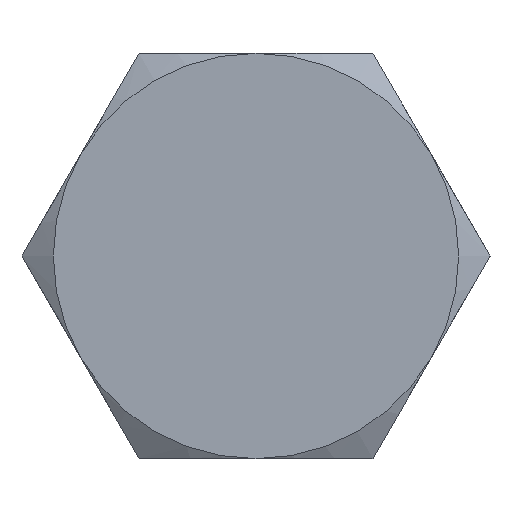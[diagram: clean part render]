
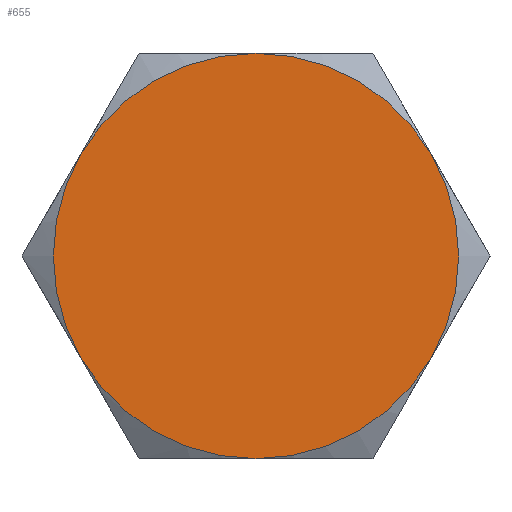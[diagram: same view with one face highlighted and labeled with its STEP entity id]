
A CAD part, left-side view. The second image highlights one B-rep face of the part: STEP entity #655.
In plain terms, the highlighted planar face has unit normal (-1, 0, 0).
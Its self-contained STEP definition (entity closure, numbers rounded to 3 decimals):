
#108 = EDGE_LOOP ( 'NONE', ( #342, #1042, #2030, #2226, #836, #2096 ) ) ;
#115 = DIRECTION ( 'NONE',  ( 0., 0., -1. ) ) ;
#236 = VERTEX_POINT ( 'NONE', #1301 ) ;
#279 = CARTESIAN_POINT ( 'NONE',  ( 0., 0., 8. ) ) ;
#342 = ORIENTED_EDGE ( 'NONE', *, *, #1904, .F. ) ;
#599 = DIRECTION ( 'NONE',  ( 1., 0., 0. ) ) ;
#629 = VERTEX_POINT ( 'NONE', #636 ) ;
#632 = CIRCLE ( 'NONE', #2373, 8. ) ;
#636 = CARTESIAN_POINT ( 'NONE',  ( 0., 6.928, -4. ) ) ;
#639 = CARTESIAN_POINT ( 'NONE',  ( 0., 0., 0. ) ) ;
#655 = ADVANCED_FACE ( 'NONE', ( #656 ), #861, .F. ) ;
#656 = FACE_OUTER_BOUND ( 'NONE', #108, .T. ) ;
#662 = VERTEX_POINT ( 'NONE', #1693 ) ;
#677 = CARTESIAN_POINT ( 'NONE',  ( 0., 0., 0. ) ) ;
#716 = CARTESIAN_POINT ( 'NONE',  ( 0., 0., 0. ) ) ;
#784 = AXIS2_PLACEMENT_3D ( 'NONE', #677, #2162, #892 ) ;
#797 = DIRECTION ( 'NONE',  ( 0., 0., -1. ) ) ;
#836 = ORIENTED_EDGE ( 'NONE', *, *, #1488, .T. ) ;
#842 = CARTESIAN_POINT ( 'NONE',  ( 0., 9.238, 0. ) ) ;
#859 = DIRECTION ( 'NONE',  ( 0., 0., -1. ) ) ;
#861 = PLANE ( 'NONE',  #935 ) ;
#892 = DIRECTION ( 'NONE',  ( 0., 0., -1. ) ) ;
#916 = CIRCLE ( 'NONE', #2617, 8. ) ;
#923 = DIRECTION ( 'NONE',  ( 0., 0., 1. ) ) ;
#935 = AXIS2_PLACEMENT_3D ( 'NONE', #842, #981, #991 ) ;
#966 = EDGE_CURVE ( 'NONE', #2557, #662, #2562, .T. ) ;
#981 = DIRECTION ( 'NONE',  ( 1., 0., 0. ) ) ;
#988 = CIRCLE ( 'NONE', #1913, 8. ) ;
#991 = DIRECTION ( 'NONE',  ( 0., 0., -1. ) ) ;
#1042 = ORIENTED_EDGE ( 'NONE', *, *, #966, .F. ) ;
#1173 = CIRCLE ( 'NONE', #784, 8. ) ;
#1213 = CARTESIAN_POINT ( 'NONE',  ( 0., 0., 0. ) ) ;
#1265 = EDGE_CURVE ( 'NONE', #1953, #2557, #1448, .T. ) ;
#1301 = CARTESIAN_POINT ( 'NONE',  ( 0., 6.928, 4. ) ) ;
#1342 = EDGE_CURVE ( 'NONE', #2080, #1953, #1173, .T. ) ;
#1355 = DIRECTION ( 'NONE',  ( 1., 0., 0. ) ) ;
#1432 = DIRECTION ( 'NONE',  ( 0., 0., -1. ) ) ;
#1440 = EDGE_CURVE ( 'NONE', #629, #236, #988, .T. ) ;
#1442 = CARTESIAN_POINT ( 'NONE',  ( 0., -6.928, 4. ) ) ;
#1448 = CIRCLE ( 'NONE', #2102, 8. ) ;
#1488 = EDGE_CURVE ( 'NONE', #2080, #236, #916, .T. ) ;
#1693 = CARTESIAN_POINT ( 'NONE',  ( 0., 0., -8. ) ) ;
#1731 = AXIS2_PLACEMENT_3D ( 'NONE', #2476, #599, #797 ) ;
#1904 = EDGE_CURVE ( 'NONE', #662, #629, #632, .T. ) ;
#1913 = AXIS2_PLACEMENT_3D ( 'NONE', #2622, #1355, #115 ) ;
#1953 = VERTEX_POINT ( 'NONE', #1442 ) ;
#2030 = ORIENTED_EDGE ( 'NONE', *, *, #1265, .F. ) ;
#2080 = VERTEX_POINT ( 'NONE', #279 ) ;
#2096 = ORIENTED_EDGE ( 'NONE', *, *, #1440, .F. ) ;
#2102 = AXIS2_PLACEMENT_3D ( 'NONE', #639, #2121, #859 ) ;
#2121 = DIRECTION ( 'NONE',  ( 1., 0., 0. ) ) ;
#2162 = DIRECTION ( 'NONE',  ( 1., 0., 0. ) ) ;
#2192 = DIRECTION ( 'NONE',  ( -1., 0., 0. ) ) ;
#2226 = ORIENTED_EDGE ( 'NONE', *, *, #1342, .F. ) ;
#2274 = CARTESIAN_POINT ( 'NONE',  ( 0., -6.928, -4. ) ) ;
#2373 = AXIS2_PLACEMENT_3D ( 'NONE', #1213, #2700, #1432 ) ;
#2476 = CARTESIAN_POINT ( 'NONE',  ( 0., 0., 0. ) ) ;
#2557 = VERTEX_POINT ( 'NONE', #2274 ) ;
#2562 = CIRCLE ( 'NONE', #1731, 8. ) ;
#2617 = AXIS2_PLACEMENT_3D ( 'NONE', #716, #2192, #923 ) ;
#2622 = CARTESIAN_POINT ( 'NONE',  ( 0., 0., 0. ) ) ;
#2700 = DIRECTION ( 'NONE',  ( 1., 0., 0. ) ) ;
